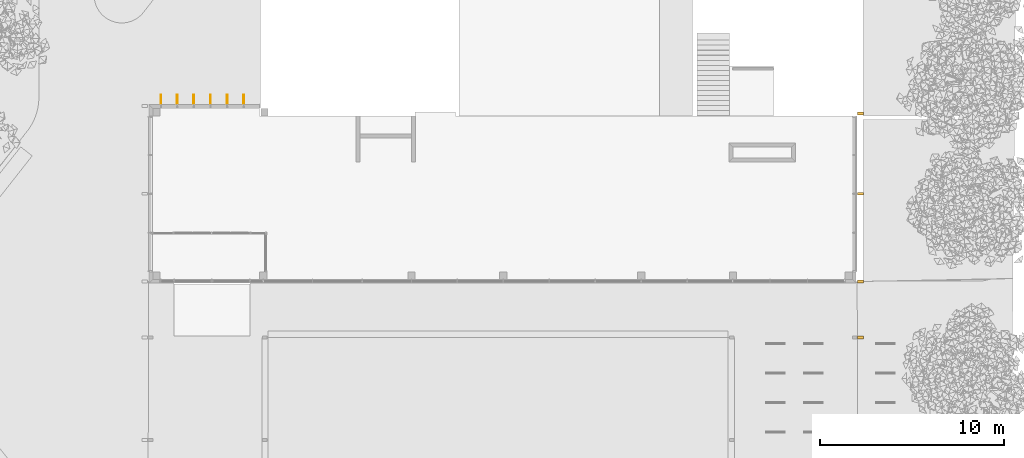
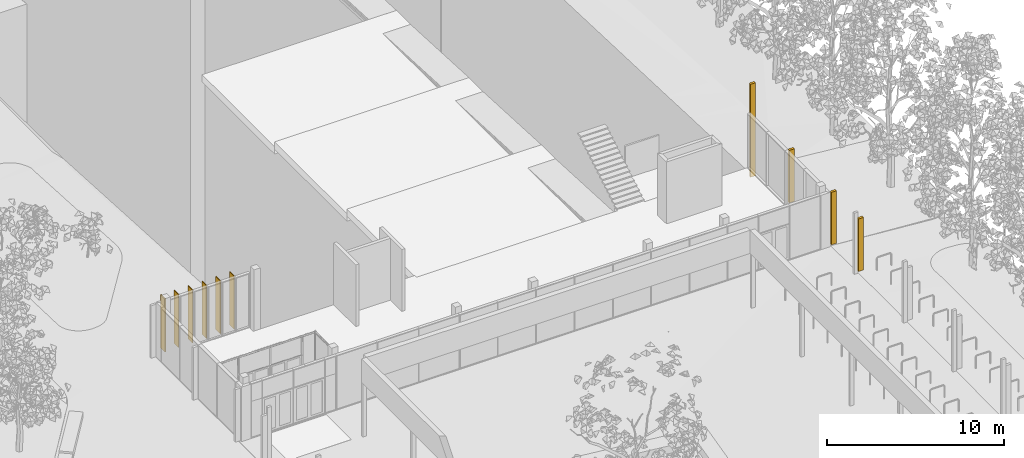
# One storey, part 42 of 69: 10 coverings.
"""IFC2X3 building model written with IfcOpenShell, lengths in millimetres."""

from ifc_helpers import new_model, entity, si_unit, converted_unit, derived_unit, money_unit, direction, frame, origin_with_axes, origin_2d_with_axis, place, context, subcontext, project, spatial, polyline, rectangle, outline, extrude, material, type_object, element, save


model = new_model("IFC2X3")

# Units and contexts
model_context = context("Model", 3, precision=0.01, world=origin_with_axes(), true_north=direction((0.0, 1.0)))
body_context = subcontext(model_context, "Body", "Model", "MODEL_VIEW")
ifc_project = project(units=[si_unit("LENGTHUNIT", "METRE", prefix="MILLI"), si_unit("AREAUNIT", "SQUARE_METRE"), si_unit("VOLUMEUNIT", "CUBIC_METRE"), converted_unit("PLANEANGLEUNIT", "DEGREE", entity("IfcPlaneAngleMeasure", 0.0174532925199), si_unit("PLANEANGLEUNIT", "RADIAN"), dimensions=[0, 0, 0, 0, 0, 0, 0]), si_unit("SOLIDANGLEUNIT", "STERADIAN"), money_unit("EUR"), converted_unit("TIMEUNIT", "Year", entity("IfcTimeMeasure", 31556926.0), si_unit("TIMEUNIT", "SECOND"), dimensions=[0, 0, 1, 0, 0, 0, 0]), si_unit("MASSUNIT", "GRAM", prefix="KILO"), si_unit("THERMODYNAMICTEMPERATUREUNIT", "DEGREE_CELSIUS"), si_unit("LUMINOUSINTENSITYUNIT", "LUMEN"), si_unit("ENERGYUNIT", "JOULE", prefix="MEGA"), derived_unit("THERMALCONDUCTANCEUNIT", [(si_unit("POWERUNIT", "WATT"), 1), (si_unit("LENGTHUNIT", "METRE"), -1), (si_unit("THERMODYNAMICTEMPERATUREUNIT", "KELVIN"), -1)]), derived_unit("SPECIFICHEATCAPACITYUNIT", [(si_unit("ENERGYUNIT", "JOULE"), 1), (si_unit("MASSUNIT", "GRAM", prefix="KILO"), -1), (si_unit("THERMODYNAMICTEMPERATUREUNIT", "KELVIN"), -1)]), derived_unit("MASSDENSITYUNIT", [(si_unit("MASSUNIT", "GRAM", prefix="KILO"), 1), (si_unit("VOLUMEUNIT", "CUBIC_METRE"), -1)])], contexts=[model_context])

# Site, building, storey
site_placement = place(None, origin_with_axes())
site = spatial("IfcSite", under=ifc_project, at=site_placement, Name="Puškini 31, Narva", CompositionType="ELEMENT")
building_placement = place(site_placement, origin_with_axes())
building = spatial("IfcBuilding", under=site, at=building_placement, Name="Narva Riigigümnaasium", CompositionType="ELEMENT")
storey_placement = place(building_placement, origin_with_axes())
storey = spatial("IfcBuildingStorey", under=building, at=storey_placement, Name="1.korrus 0.00", CompositionType="ELEMENT", Elevation=0.0)

# Coverings
ifc_material_1 = material(Name="ET-04_Alumiinium")
covering_type_1 = type_object("IfcCoveringType", Name="ET-04_Alumiinium 50", PredefinedType="NOTDEFINED")
for number, where, z_axis, x_axis in (
    (1, (16568.9999994, 160149.999992, 49.9998918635), (0.0, 0.0, 1.0), (0.0, -1.0, 0.0)),
    (2, (17449.9999992, 160149.999992, 49.9998918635), (0.0, 0.0, 1.0), (0.0, -1.0, 0.0)),
    (3, (18355.999999, 160149.999992, 49.9998918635), (0.0, 0.0, 1.0), (0.0, -1.0, 0.0)),
    (4, (19261.9999989, 160149.999992, 49.9998918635), (0.0, 0.0, 1.0), (0.0, -1.0, 0.0)),
    (5, (20167.9999987, 160149.999992, 49.9998918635), (0.0, 0.0, 1.0), (0.0, -1.0, 0.0)),
    (6, (21073.9999986, 160149.999992, 49.9998918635), (0.0, 0.0, 1.0), (0.0, -1.0, 0.0)),
):
    element("IfcCovering", number, at=place(storey_placement, frame(where, z_axis=z_axis, x_axis=x_axis)), inside=storey, type_object=covering_type_1, material=ifc_material_1, Name="Fassaadilamell", PredefinedType="NOTDEFINED", context=body_context, shape_type="SweptSolid", body=[
        extrude(outline(polyline([(0.0, -25.0), (500.0, -25.0), (500.0, 25.0), (0.0, 25.0), (0.0, -25.0)])), origin_with_axes(), (0.0, 0.0, 1.0), 3680.0),
    ])
ifc_material_2 = material(Name="Puitroov")
covering_type_2 = type_object("IfcCoveringType", Name="Puitroov 150 x 320", PredefinedType="NOTDEFINED")
covering_1_placement = place(storey_placement, frame((54643.000001, 159127.673612, -788.392449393), z_axis=(0.0, 0.0, 1.0), x_axis=(0.0, 1.0, 0.0)))
element("IfcCovering", 7, at=covering_1_placement, inside=storey, type_object=covering_type_2, material=ifc_material_2, Name="Lamell", PredefinedType="NOTDEFINED", context=body_context, shape_type="SweptSolid", body=[
    extrude(rectangle(XDim=150.0, YDim=320.0, at=origin_2d_with_axis()), origin_with_axes(), (0.0, 0.0, 1.0), 6428.39244939),
])
for number, where, z_axis, x_axis in (
    (8, (54643.000001, 154750.00001, 100.0), (0.0, 0.0, 1.0), (0.0, 1.0, 0.0)),
    (9, (54643.0000017, 149974.501625, 100.0), (0.0, 0.0, 1.0), (0.0, 1.0, 0.0)),
):
    element("IfcCovering", number, at=place(storey_placement, frame(where, z_axis=z_axis, x_axis=x_axis)), inside=storey, type_object=covering_type_2, material=ifc_material_2, Name="Lamell", PredefinedType="NOTDEFINED", context=body_context, shape_type="SweptSolid", body=[
        extrude(rectangle(XDim=150.0, YDim=320.0, at=origin_2d_with_axis()), origin_with_axes(), (0.0, 0.0, 1.0), 3629.0),
    ])
covering_2_placement = place(storey_placement, frame((54643.000001, 146924.501616, 100.0), z_axis=(0.0, 0.0, 1.0), x_axis=(0.0, 1.0, 0.0)))
element("IfcCovering", 10, at=covering_2_placement, inside=storey, type_object=covering_type_2, material=ifc_material_2, Name="Lamell", PredefinedType="NOTDEFINED", context=body_context, shape_type="SweptSolid", body=[
    extrude(rectangle(XDim=150.0, YDim=320.0, at=origin_2d_with_axis()), origin_with_axes(), (0.0, 0.0, 1.0), 3635.0),
])

save(model, "model.ifc")
